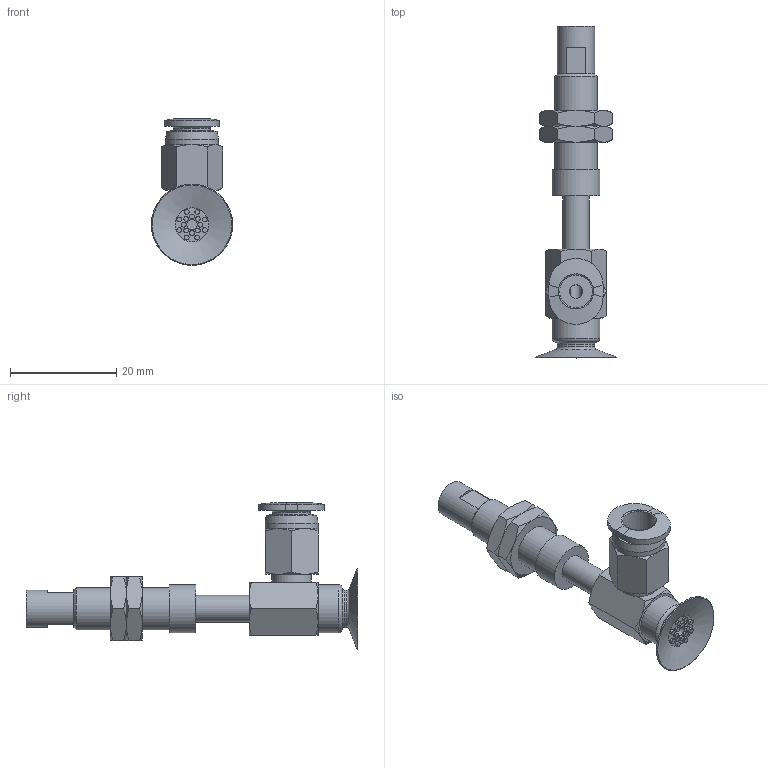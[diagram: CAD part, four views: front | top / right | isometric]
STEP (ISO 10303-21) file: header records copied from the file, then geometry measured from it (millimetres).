
FILE_DESCRIPTION(('STEP AP203'),'1');
FILE_NAME('-O.stp','2025-02-13T07:45:49',(' '),(' '),'Spatial InterOp 3D',' ',' ');
FILE_SCHEMA(('CONFIG_CONTROL_DESIGN'));
Length unit declared in the file: millimetre
Products named in the file (7): BNABPAYS-15A-10-※-O; NAPAYS-10A-10--M; NAPAYS-10A-10--F; Nut-10A-S; CONNECTOR-10A-10-PA; PC-C_06-M5; BPAG-15A-※_3D
Assembly tree (7 placements, depth 2):
  BNABPAYS-15A-10-※-O
    NAPAYS-10A-10--M
    NAPAYS-10A-10--F
    Nut-10A-S  x2
    CONNECTOR-10A-10-PA
    PC-C_06-M5
    BPAG-15A-※_3D
Bounding box: 15.3 x 62.5 x 27.63 mm (x, y, z)
Volume: 3524.6 mm3; surface area: 5510.2 mm2
Topology: 6 solids, 9 shells, 211 faces, 419 edges, 256 vertices
Faces by surface type: plane 84, cone 66, cylinder 43, torus 11, bspline 4, revolution 3
Full cylindrical faces by diameter (mm): 0.9 x16, 2 x2, 4 x4, 4.134 x2, 5 x4, 6 x2, 7 x3, 7.188 x2, 7.4 x1, 8 x1, 8.2 x1, 9 x2, 10 x1
Entity records: 5240 total; most frequent: CARTESIAN_POINT 1405, DIRECTION 741, ORIENTED_EDGE 584, AXIS2_PLACEMENT_3D 340, EDGE_LOOP 298, EDGE_CURVE 294, VERTEX_POINT 218, FACE_OUTER_BOUND 179
